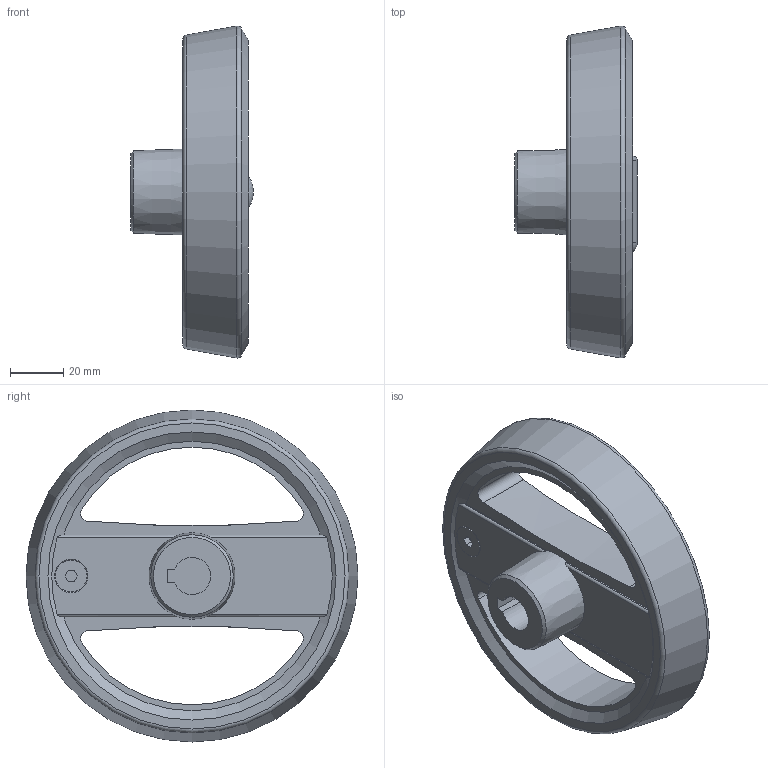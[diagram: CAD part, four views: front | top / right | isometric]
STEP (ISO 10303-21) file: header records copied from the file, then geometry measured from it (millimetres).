
FILE_DESCRIPTION( ( 'STEP AP203' ), '1' );
FILE_NAME( 'C:/Temp/Ganter_Step_05_03_2020/data/1_3/gn_924_3/gn_924_3_b/Handwheel with retractable handle GN 924.3-125-B14-R-SR (unactivated).stp', '2020-03-05T10:40:47', ( 'License CC BY-ND 4.0' ), ( 'CADENAS' ), ' ', 'PARTsolutions', ' ' );
FILE_SCHEMA( ( 'CONFIG_CONTROL_DESIGN' ) );
Length unit declared in the file: millimetre
Products named in the file (3): Handwheel with retractable handle GN 924.3-125-B14-R-SR (unactivated); _Umleggriff-Handrad GN 924.3-125-B14-R-SR-1; _Umleggriff-Handrad GN 924.3-125-B14-R-SR-2
Assembly tree (2 placements, depth 2):
  Handwheel with retractable handle GN 924.3-125-B14-R-SR (unactivated)
    _Umleggriff-Handrad GN 924.3-125-B14-R-SR-1
    _Umleggriff-Handrad GN 924.3-125-B14-R-SR-2
Bounding box: 46.2 x 125 x 125 mm (x, y, z)
Volume: 165155.1 mm3; surface area: 51068.7 mm2
Topology: 2 solids, 2 shells, 103 faces, 261 edges, 167 vertices
Faces by surface type: plane 48, cylinder 35, cone 11, torus 7, sphere 2
Full cylindrical faces by diameter (mm): 4 x4, 10 x1, 12 x1, 18.5 x1, 22 x1, 25 x1, 26.6 x1
Entity records: 3393 total; most frequent: CARTESIAN_POINT 939, DIRECTION 484, ORIENTED_EDGE 448, EDGE_CURVE 224, AXIS2_PLACEMENT_3D 194, VERTEX_POINT 162, EDGE_LOOP 151, FACE_OUTER_BOUND 120
